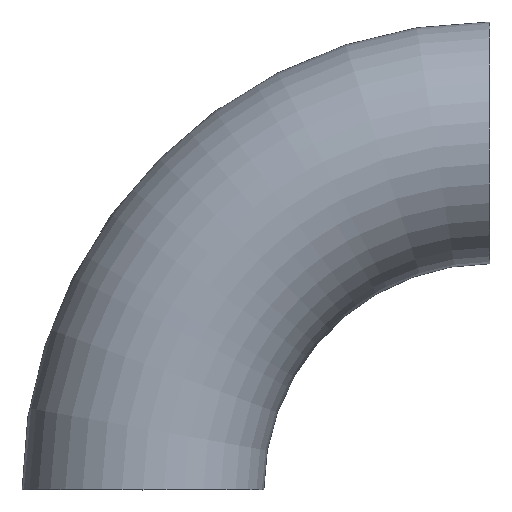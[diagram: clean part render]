
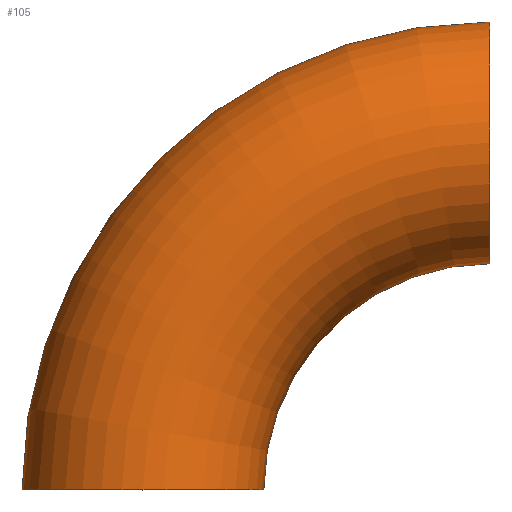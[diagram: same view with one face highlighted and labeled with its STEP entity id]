
A CAD part, top view. The second image highlights one B-rep face of the part: STEP entity #105.
In plain terms, the highlighted toroidal (fillet/blend) face has major radius 188 mm and minor radius 65.5 mm.
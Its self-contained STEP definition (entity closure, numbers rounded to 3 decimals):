
#11 = CARTESIAN_POINT ( 'NONE',  ( 188., 0., 0. ) ) ;
#18 = AXIS2_PLACEMENT_3D ( 'NONE', #11, #109, #153 ) ;
#24 = CARTESIAN_POINT ( 'NONE',  ( 188., 188., 0. ) ) ;
#26 = VERTEX_POINT ( 'NONE', #179 ) ;
#27 = CARTESIAN_POINT ( 'NONE',  ( 188., 0., 0. ) ) ;
#30 = CIRCLE ( 'NONE', #134, 65.5 ) ;
#43 = ORIENTED_EDGE ( 'NONE', *, *, #118, .F. ) ;
#48 = CARTESIAN_POINT ( 'NONE',  ( 0., 0., 0. ) ) ;
#51 = DIRECTION ( 'NONE',  ( 0., 0., 1. ) ) ;
#60 = AXIS2_PLACEMENT_3D ( 'NONE', #48, #245, #51 ) ;
#74 = CARTESIAN_POINT ( 'NONE',  ( 188., 0., 0. ) ) ;
#81 = AXIS2_PLACEMENT_3D ( 'NONE', #27, #124, #243 ) ;
#83 = DIRECTION ( 'NONE',  ( 1., 0., 0. ) ) ;
#85 = ORIENTED_EDGE ( 'NONE', *, *, #227, .F. ) ;
#91 = ORIENTED_EDGE ( 'NONE', *, *, #250, .T. ) ;
#103 = CARTESIAN_POINT ( 'NONE',  ( 65.5, 0., 0. ) ) ;
#105 = ADVANCED_FACE ( 'NONE', ( #138 ), #151, .T. ) ;
#109 = DIRECTION ( 'NONE',  ( 0., 0., 1. ) ) ;
#117 = ORIENTED_EDGE ( 'NONE', *, *, #166, .T. ) ;
#118 = EDGE_CURVE ( 'NONE', #26, #167, #200, .T. ) ;
#124 = DIRECTION ( 'NONE',  ( 0., 0., 1. ) ) ;
#125 = DIRECTION ( 'NONE',  ( 0., 0., 1. ) ) ;
#127 = AXIS2_PLACEMENT_3D ( 'NONE', #74, #224, #129 ) ;
#129 = DIRECTION ( 'NONE',  ( 1., 0., 0. ) ) ;
#134 = AXIS2_PLACEMENT_3D ( 'NONE', #24, #83, #125 ) ;
#138 = FACE_OUTER_BOUND ( 'NONE', #219, .T. ) ;
#140 = CIRCLE ( 'NONE', #81, 253.5 ) ;
#151 = TOROIDAL_SURFACE ( 'NONE', #18, 188., 65.5 ) ;
#153 = DIRECTION ( 'NONE',  ( 1., 0., 0. ) ) ;
#154 = CIRCLE ( 'NONE', #60, 65.5 ) ;
#166 = EDGE_CURVE ( 'NONE', #222, #167, #154, .T. ) ;
#167 = VERTEX_POINT ( 'NONE', #103 ) ;
#173 = VERTEX_POINT ( 'NONE', #182 ) ;
#179 = CARTESIAN_POINT ( 'NONE',  ( 188., 122.5, 0. ) ) ;
#182 = CARTESIAN_POINT ( 'NONE',  ( 188., 253.5, 0. ) ) ;
#200 = CIRCLE ( 'NONE', #127, 122.5 ) ;
#202 = CARTESIAN_POINT ( 'NONE',  ( -65.5, 0., 0. ) ) ;
#219 = EDGE_LOOP ( 'NONE', ( #85, #91, #117, #43 ) ) ;
#222 = VERTEX_POINT ( 'NONE', #202 ) ;
#224 = DIRECTION ( 'NONE',  ( 0., 0., 1. ) ) ;
#227 = EDGE_CURVE ( 'NONE', #173, #26, #30, .T. ) ;
#243 = DIRECTION ( 'NONE',  ( 1., 0., 0. ) ) ;
#245 = DIRECTION ( 'NONE',  ( 0., 1., 0. ) ) ;
#250 = EDGE_CURVE ( 'NONE', #173, #222, #140, .T. ) ;
